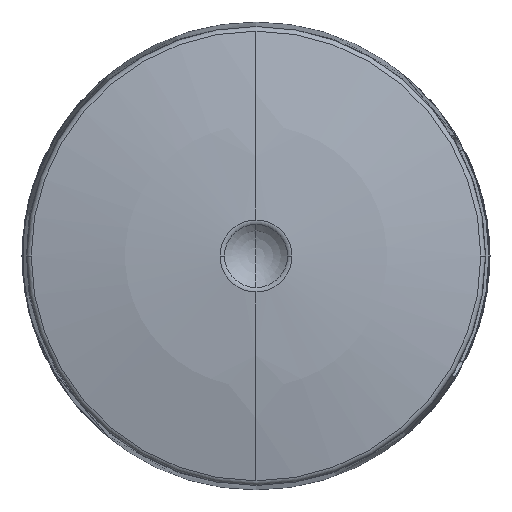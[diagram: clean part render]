
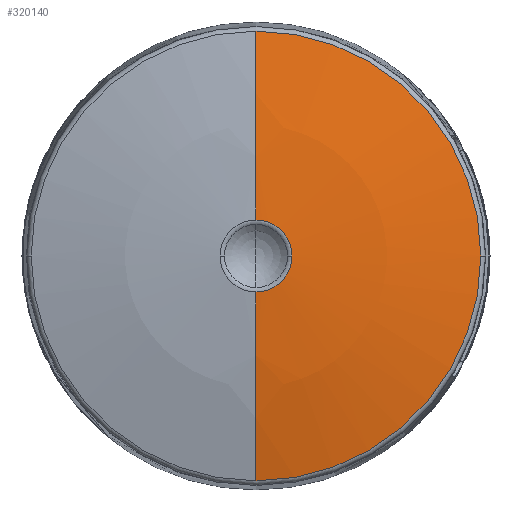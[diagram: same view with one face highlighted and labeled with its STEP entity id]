
A CAD part, left-side view. The second image highlights one B-rep face of the part: STEP entity #320140.
In plain terms, the highlighted spherical face has radius 32.539 mm.
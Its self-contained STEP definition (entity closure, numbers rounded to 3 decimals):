
#319680=CARTESIAN_POINT('',(66.893,46.615,
0.));
#319690=DIRECTION('',(1.,0.,0.));
#319700=DIRECTION('',(0.,0.,1.));
#319710=AXIS2_PLACEMENT_3D('',#319680,#319690,#319700);
#319720=SPHERICAL_SURFACE('',#319710,32.539);
#319730=CARTESIAN_POINT('',(34.376,46.615,
0.));
#319740=DIRECTION('',(1.,0.,0.));
#319750=DIRECTION('',(0.,-1.,0.));
#319760=AXIS2_PLACEMENT_3D('',#319730,#319740,#319750);
#319770=CIRCLE('',#319760,1.19);
#319780=CARTESIAN_POINT('',(34.376,46.615,
-1.19));
#319790=VERTEX_POINT('',#319780);
#319800=CARTESIAN_POINT('',(34.376,47.805,
0.));
#319810=VERTEX_POINT('',#319800);
#319820=EDGE_CURVE('',#319790,#319810,#319770,.T.);
#319830=ORIENTED_EDGE('',*,*,#319820,.T.);
#319840=CARTESIAN_POINT('',(66.893,46.615,
0.));
#319850=DIRECTION('',(0.,-1.,0.));
#319860=DIRECTION('',(-1.,0.,0.));
#319870=AXIS2_PLACEMENT_3D('',#319840,#319850,#319860);
#319880=CIRCLE('',#319870,32.539);
#319890=CARTESIAN_POINT('',(35.217,46.615,
-7.446));
#319900=VERTEX_POINT('',#319890);
#319910=EDGE_CURVE('',#319790,#319900,#319880,.T.);
#319920=ORIENTED_EDGE('',*,*,#319910,.F.);
#319930=CARTESIAN_POINT('',(35.217,46.615,
0.));
#319940=DIRECTION('',(1.,0.,0.));
#319950=DIRECTION('',(0.,-1.,0.));
#319960=AXIS2_PLACEMENT_3D('',#319930,#319940,#319950);
#319970=CIRCLE('',#319960,7.446);
#319980=CARTESIAN_POINT('',(35.217,54.062,
0.));
#319990=VERTEX_POINT('',#319980);
#320000=EDGE_CURVE('',#319900,#319990,#319970,.T.);
#320010=ORIENTED_EDGE('',*,*,#320000,.F.);
#320020=CARTESIAN_POINT('',(35.217,46.615,
7.446));
#320030=VERTEX_POINT('',#320020);
#320040=EDGE_CURVE('',#319990,#320030,#319970,.T.);
#320050=ORIENTED_EDGE('',*,*,#320040,.F.);
#320060=CARTESIAN_POINT('',(34.376,46.615,
1.19));
#320070=VERTEX_POINT('',#320060);
#320080=EDGE_CURVE('',#320030,#320070,#319880,.T.);
#320090=ORIENTED_EDGE('',*,*,#320080,.F.);
#320100=EDGE_CURVE('',#319810,#320070,#319770,.T.);
#320110=ORIENTED_EDGE('',*,*,#320100,.T.);
#320120=EDGE_LOOP('',(#320110,#320090,#320050,#320010,#319920,#319830));
#320130=FACE_OUTER_BOUND('',#320120,.T.);
#320140=ADVANCED_FACE('',(#320130),#319720,.T.);
